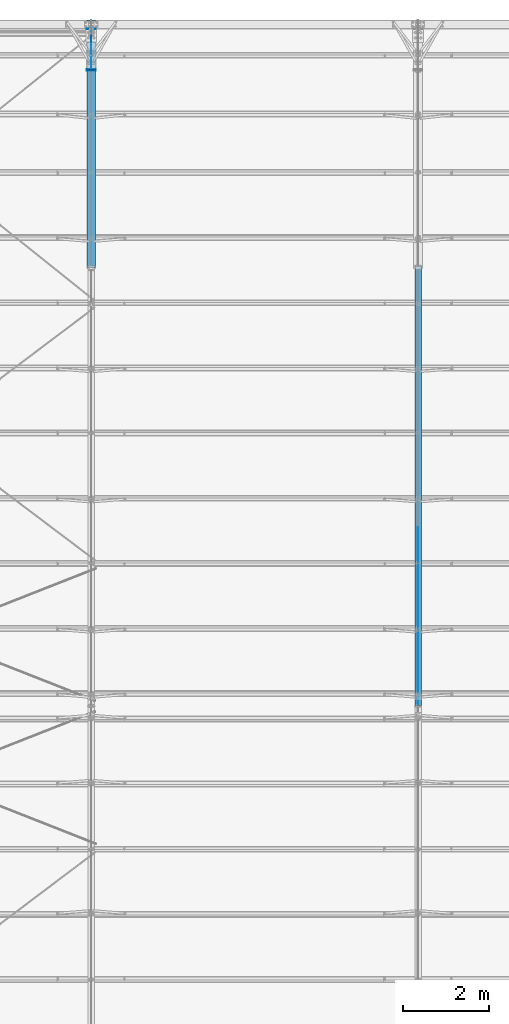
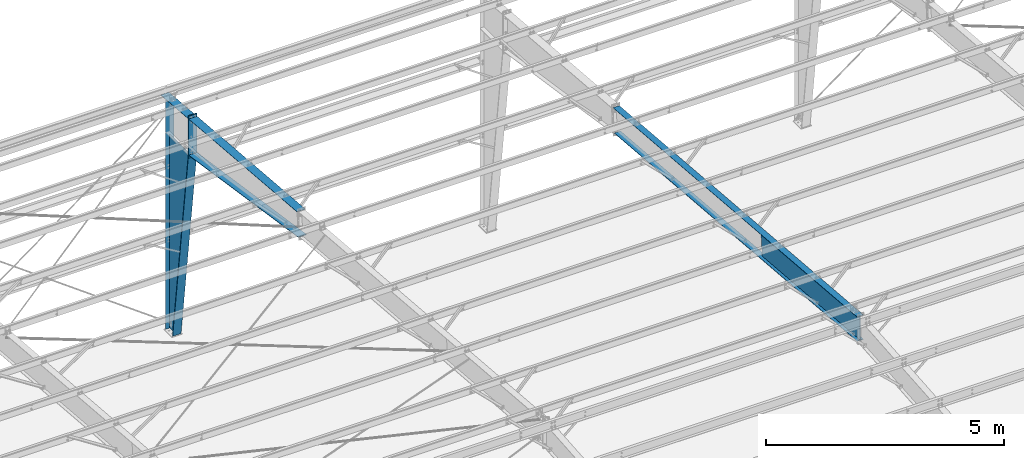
# One storey, part 56 of 185: 11 discrete accessories, 3 elements without a shape of their own.
"""IFC2X3 building model written with IfcOpenShell, lengths in millimetres."""

from ifc_helpers import new_model, si_unit, frame, origin_with_axes, origin_2d_with_axis, place, context, subcontext, project, spatial, rectangle, extrude, clip, halfspace, material, type_object, element, aggregate, save


model = new_model("IFC2X3")

# Units and contexts
model_context = context("Model", 3, precision=1e-05, world=origin_with_axes())
body_context = subcontext(model_context, "Body", "Model", "MODEL_VIEW")
ifc_project = project(units=[si_unit("LENGTHUNIT", "METRE", prefix="MILLI"), si_unit("AREAUNIT", "SQUARE_METRE"), si_unit("VOLUMEUNIT", "CUBIC_METRE"), si_unit("MASSUNIT", "GRAM", prefix="KILO"), si_unit("TIMEUNIT", "SECOND"), si_unit("PLANEANGLEUNIT", "RADIAN"), si_unit("SOLIDANGLEUNIT", "STERADIAN"), si_unit("THERMODYNAMICTEMPERATUREUNIT", "DEGREE_CELSIUS"), si_unit("LUMINOUSINTENSITYUNIT", "LUMEN")], contexts=[model_context])

# Site, building, storey
site_placement = place(None, origin_with_axes())
site = spatial("IfcSite", under=ifc_project, at=site_placement, Name="Undefined", CompositionType="ELEMENT")
building_placement = place(site_placement, origin_with_axes())
building = spatial("IfcBuilding", under=site, at=building_placement, Name="Undefined", CompositionType="ELEMENT")
storey_placement = place(building_placement, origin_with_axes())
storey = spatial("IfcBuildingStorey", under=building, at=storey_placement, Name="Undefined", CompositionType="ELEMENT", Elevation=0.0)

# Assembly, discrete accessory
assembly_1_placement = place(storey_placement, origin_with_axes())
assembly_1 = element("IfcElementAssembly", 1, at=assembly_1_placement, inside=storey, Name="Steel Assembly", AssemblyPlace="NOTDEFINED", PredefinedType="RIGID_FRAME")
ifc_material = material(Name="STEEL/55")
discrete_accessory_type_1 = type_object("IfcDiscreteAccessoryType", Name="Outside Flange")
discrete_accessory_1_placement = place(assembly_1_placement, frame((22479.0, 16015.0269501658, 7220.48297950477), z_axis=(-1.0, 0.0, 0.0), x_axis=(0.0, 0.996545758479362, -0.0830454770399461)))
discrete_accessory_1 = element("IfcDiscreteAccessory", 2, at=discrete_accessory_1_placement, type_object=discrete_accessory_type_1, material=ifc_material, Name="Outside Flange", ObjectType="FL5/16\"X6\"", context=body_context, shape_type="SweptSolid", body=[
    extrude(rectangle(XDim=7.874, YDim=152.4, at=origin_2d_with_axis()), frame((10276.4296125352, 1.96160351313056e-12, 0.0), z_axis=(-1.0, 0.0, 0.0), x_axis=(0.0, -1.0, 0.0)), (0.0, 0.0, 1.0), 10276.4),
])

assembly_2_placement = place(storey_placement, origin_with_axes())
assembly_2 = element("IfcElementAssembly", 3, at=assembly_2_placement, inside=storey, Name="Steel Assembly", AssemblyPlace="NOTDEFINED", PredefinedType="RIGID_FRAME")
discrete_accessory_2_placement = place(assembly_2_placement, frame((14859.0, 26278.234081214, 6365.21571746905), z_axis=(-1.0, 0.0, 0.0), x_axis=(0.0, 0.996545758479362, -0.0830454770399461)))
discrete_accessory_2 = element("IfcDiscreteAccessory", 4, at=discrete_accessory_2_placement, type_object=discrete_accessory_type_1, material=ifc_material, Name="Outside Flange", ObjectType="FL5/16\"X8\"", context=body_context, shape_type="SweptSolid", body=[
    extrude(rectangle(XDim=7.874, YDim=203.2, at=origin_2d_with_axis()), frame((4558.68878185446, 6.32645155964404e-14, 0.0), z_axis=(-1.0, 0.0, 0.0), x_axis=(0.0, -1.0, 0.0)), (0.0, 0.0, 1.0), 4558.7),
])

assembly_3_placement = place(storey_placement, origin_with_axes())
assembly_3 = element("IfcElementAssembly", 5, at=assembly_3_placement, inside=storey, Name="Steel Assembly", AssemblyPlace="NOTDEFINED", PredefinedType="RIGID_FRAME")
discrete_accessory_3_placement = place(assembly_3_placement, frame((14859.0, 31796.863, 15.8750000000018), z_axis=(0.0, 0.0, 1.0), x_axis=(1.0, 0.0, 0.0)))
discrete_accessory_3 = element("IfcDiscreteAccessory", 6, at=discrete_accessory_3_placement, type_object=discrete_accessory_type_1, material=ifc_material, Name="Outside Flange", ObjectType="FL5/16\"X8\"", context=body_context, shape_type="SweptSolid", body=[
    extrude(rectangle(XDim=7.874, YDim=203.2, at=origin_2d_with_axis()), frame((0.0, 0.0, 5885.17624136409), z_axis=(0.0, 0.0, -1.0), x_axis=(0.0, 1.0, 0.0)), (0.0, 0.0, 1.0), 5885.2),
])

# Discrete accessory
discrete_accessory_type_2 = type_object("IfcDiscreteAccessoryType", Name="Inside Flange")
discrete_accessory_4_placement = place(assembly_1_placement, frame((22479.0000000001, 16015.0955042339, 6600.034607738), z_axis=(-1.0, 0.0, 0.0), x_axis=(0.0, 0.996545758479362, -0.0830454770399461)))
discrete_accessory_4 = element("IfcDiscreteAccessory", 7, at=discrete_accessory_4_placement, type_object=discrete_accessory_type_2, material=ifc_material, Name="Inside Flange", ObjectType="FL3/8\"X6\"", context=body_context, shape_type="SweptSolid", body=[
    extrude(rectangle(XDim=9.525, YDim=152.4, at=origin_2d_with_axis()), frame((10224.8358624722, 0.0, 0.0), z_axis=(-1.0, 0.0, 0.0), x_axis=(0.0, -1.0, 0.0)), (0.0, 0.0, 1.0), 10224.8),
])

discrete_accessory_5_placement = place(assembly_2_placement, frame((14858.9999999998, 30820.5627257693, 5058.80982208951), z_axis=(1.0, 0.0, 0.0), x_axis=(0.0, -0.988976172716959, 0.148074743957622)))
discrete_accessory_5 = element("IfcDiscreteAccessory", 8, at=discrete_accessory_5_placement, type_object=discrete_accessory_type_2, material=ifc_material, Name="Inside Flange", ObjectType="FL1/2\"X8\"", context=body_context, shape_type="SweptSolid", body=[
    extrude(rectangle(XDim=12.7, YDim=203.2, at=origin_2d_with_axis()), frame((4644.66771051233, -1.28915425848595e-13, 0.0), z_axis=(-1.0, 0.0, 0.0), x_axis=(0.0, -1.0, 0.0)), (0.0, 0.0, 1.0), 4644.7),
])

discrete_accessory_6_placement = place(assembly_3_placement, frame((14859.0, 31502.1855049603, 16.7056326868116), z_axis=(1.0, 0.0, 0.0), x_axis=(0.0, -0.130808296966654, 0.991407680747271)))
discrete_accessory_6 = element("IfcDiscreteAccessory", 9, at=discrete_accessory_6_placement, type_object=discrete_accessory_type_2, material=ifc_material, Name="Inside Flange", ObjectType="FL1/2\"X8\"", context=body_context, shape_type="SweptSolid", body=[
    extrude(rectangle(XDim=12.7, YDim=203.2, at=origin_2d_with_axis()), frame((5010.04109205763, -1.39056574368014e-13, 0.0), z_axis=(-1.0, 0.0, 0.0), x_axis=(0.0, -1.0, 0.0)), (0.0, 0.0, 1.0), 5010.0),
])

discrete_accessory_type_3 = type_object("IfcDiscreteAccessoryType", Name="Web")
discrete_accessory_7_placement = place(assembly_1_placement, frame((22479.0, 20155.3771358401, 6565.64664856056), z_axis=(0.0, 0.0830454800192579, 0.996545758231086), x_axis=(0.0, -0.996545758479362, 0.0830454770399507)))
discrete_accessory_7 = element("IfcDiscreteAccessory", 10, at=discrete_accessory_7_placement, type_object=discrete_accessory_type_3, material=ifc_material, Name="Web", ObjectType="PL3/16\"X24\"", context=body_context, shape_type="Clipping", body=[
    clip(extrude(rectangle(XDim=4.762, YDim=609.6, at=origin_2d_with_axis()), frame((4231.63776454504, 0.0, 5.87257709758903e-14), z_axis=(-1.0, 0.0, 0.0), x_axis=(0.0, -1.0, 0.0)), (0.0, 0.0, 1.0), 4231.6), halfspace(frame((4180.5175024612, 0.0, 305.854676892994), z_axis=(-0.996545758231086, 0.0, 0.0830454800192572), x_axis=(0.0, -1.0, 0.0)), True)),
])

aggregate(assembly_1, [discrete_accessory_4, discrete_accessory_7, discrete_accessory_1])

discrete_accessory_8_placement = place(assembly_3_placement, frame((14859.0, 31323.026, 15.8750000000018), z_axis=(0.0, 0.0, 1.0), x_axis=(0.0, 1.0, 0.0)))
discrete_accessory_8 = element("IfcDiscreteAccessory", 11, at=discrete_accessory_8_placement, type_object=discrete_accessory_type_3, material=ifc_material, Name="Web", ObjectType="PL3/16\"X37\"", context=body_context, shape_type="Clipping", body=[
    clip(extrude(rectangle(XDim=4.7625, YDim=939.8, at=origin_2d_with_axis()), frame((0.0, 0.0, 4968.65448446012), z_axis=(0.0, 0.0, -1.0), x_axis=(0.0, 1.0, 0.0)), (0.0, 0.0, 1.0), 4968.7), halfspace(frame((-469.900000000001, -2.38124999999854, 4968.65448446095), z_axis=(-0.991407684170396, 0.0, -0.130808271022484), x_axis=(0.130808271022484, 0.0, -0.991407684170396)), False)),
])

discrete_accessory_type_4 = type_object("IfcDiscreteAccessoryType", Name="Rafter Haunch Plate")
discrete_accessory_9_placement = place(assembly_2_placement, frame((14859.0, 30829.377, 6060.85448861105), z_axis=(-1.0, 0.0, 0.0), x_axis=(0.0, 0.0, -1.0)))
discrete_accessory_9 = element("IfcDiscreteAccessory", 12, at=discrete_accessory_9_placement, type_object=discrete_accessory_type_4, material=ifc_material, Name="Rafter Haunch Plate", ObjectType="PL5/8\"X8\"", context=body_context, shape_type="SweptSolid", body=[
    extrude(rectangle(XDim=15.748, YDim=203.2, at=origin_2d_with_axis()), frame((1076.32500219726, 0.0, 0.0), z_axis=(-1.0, 0.0, 0.0), x_axis=(0.0, -1.0, 0.0)), (0.0, 0.0, 1.0), 1076.3),
])

aggregate(assembly_2, [discrete_accessory_2, discrete_accessory_5, discrete_accessory_9])

discrete_accessory_type_5 = type_object("IfcDiscreteAccessoryType", Name="Column Connection Pla")
discrete_accessory_10_placement = place(assembly_3_placement, frame((14859.0, 30845.1885, 6060.85448555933), z_axis=(-1.0, 0.0, 0.0), x_axis=(0.0, 0.0, -1.0)))
discrete_accessory_10 = element("IfcDiscreteAccessory", 13, at=discrete_accessory_10_placement, type_object=discrete_accessory_type_5, material=ifc_material, Name="Column Connection Pla", ObjectType="FL5/8\"X8\"", context=body_context, shape_type="SweptSolid", body=[
    extrude(rectangle(XDim=15.875, YDim=203.2, at=origin_2d_with_axis()), frame((1076.32500219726, 0.0, 0.0), z_axis=(-1.0, 0.0, 0.0), x_axis=(0.0, -1.0, 0.0)), (0.0, 0.0, 1.0), 1076.3),
])

discrete_accessory_type_6 = type_object("IfcDiscreteAccessoryType", Name="Cap Plate")
discrete_accessory_11_placement = place(assembly_3_placement, frame((14859.0, 32003.669885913, 5888.13429608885), z_axis=(1.0, 0.0, 0.0), x_axis=(0.0, -0.996545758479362, 0.0830454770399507)))
discrete_accessory_11 = element("IfcDiscreteAccessory", 14, at=discrete_accessory_11_placement, type_object=discrete_accessory_type_6, material=ifc_material, Name="Cap Plate", ObjectType="FL5/16\"X8\"", context=body_context, shape_type="SweptSolid", body=[
    extrude(rectangle(XDim=7.9502, YDim=203.2, at=origin_2d_with_axis()), frame((1154.20065993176, 0.0, 0.0), z_axis=(-1.0, 0.0, 0.0), x_axis=(0.0, -1.0, 0.0)), (0.0, 0.0, 1.0), 1154.2),
])

aggregate(assembly_3, [discrete_accessory_10, discrete_accessory_11, discrete_accessory_3, discrete_accessory_6, discrete_accessory_8])

save(model, "model.ifc")
